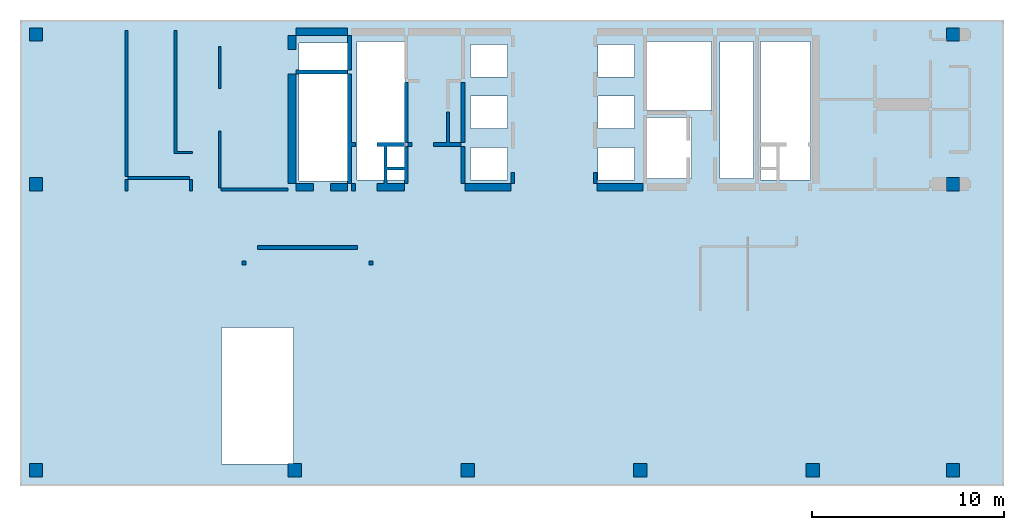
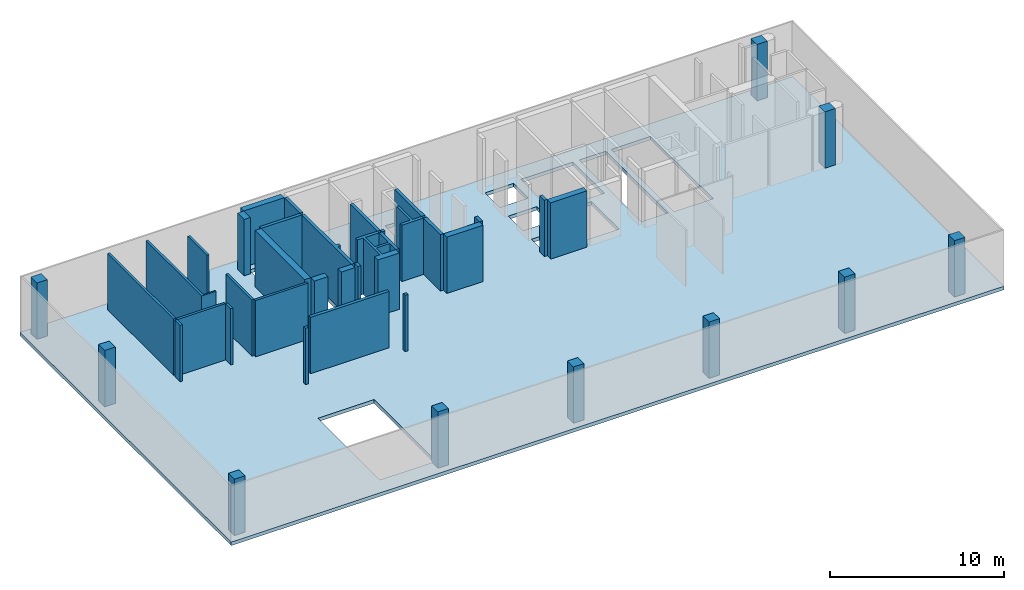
# One storey, part 1 of 4: 30 walls, 10 columns, 1 slab.
"""IFC4 building model written with IfcOpenShell, lengths in millimetres."""

from ifc_helpers import new_model, si_unit, frame, origin, place, context, project, spatial, triangles, element, save


model = new_model("IFC4")

# Units and contexts
model_context = context("Model", 3, precision=0.001, world=origin())
ifc_project = project(units=[si_unit("LENGTHUNIT", "METRE", prefix="MILLI"), si_unit("AREAUNIT", "SQUARE_METRE"), si_unit("VOLUMEUNIT", "CUBIC_METRE")], contexts=[model_context])

# Site, building, storey
site_placement = place(None, origin())
site = spatial("IfcSite", under=ifc_project, at=site_placement, Name="Site", CompositionType="ELEMENT")
building_placement = place(site_placement, origin())
building = spatial("IfcBuilding", under=site, at=building_placement, Name="INNOCEAN", CompositionType="ELEMENT")
storey_placement = place(building_placement, frame((0.0, 0.0, 42800.0)))
storey = spatial("IfcBuildingStorey", under=building, at=storey_placement, Name="F10", CompositionType="ELEMENT", Elevation=42800.0)

# Columns
column_1_placement = place(storey_placement, origin())
element("IfcColumn", 1, at=column_1_placement, inside=storey, Name="F10_Columns_F10_001", context=model_context, shape_type="Tessellation", body=[
    triangles([(40114.8, 2023.7, 0.0), (40114.8, 2023.7, 3950.0), (40114.8, 2722.3, 0.0), (40114.8, 2722.3, 3950.0), (40813.0, 2023.7, 3950.0), (40813.0, 2023.7, 0.0), (40813.0, 2722.3, 0.0), (40813.0, 2722.3, 3950.0)], [[1, 2, 3], [3, 2, 4], [5, 6, 7], [5, 7, 8], [6, 5, 1], [1, 5, 2], [8, 7, 3], [8, 3, 4], [3, 7, 1], [1, 7, 6], [8, 4, 2], [8, 2, 5]], closed=True),
])
column_2_placement = place(storey_placement, origin())
element("IfcColumn", 2, at=column_2_placement, inside=storey, Name="F10_Columns_F10_002", context=model_context, shape_type="Tessellation", body=[
    triangles([(47413.4, 24721.0, 0.0), (47413.4, 24721.0, 3950.0), (47413.4, 25419.5, 0.0), (47413.4, 25419.5, 3950.0), (48111.6, 24721.0, 3950.0), (48111.6, 24721.0, 0.0), (48111.6, 25419.5, 0.0), (48111.6, 25419.5, 3950.0)], [[1, 2, 3], [3, 2, 4], [5, 6, 7], [5, 7, 8], [6, 5, 1], [1, 5, 2], [8, 7, 3], [8, 3, 4], [1, 3, 6], [3, 7, 6], [4, 2, 5], [8, 4, 5]], closed=True),
])
column_3_placement = place(storey_placement, origin())
element("IfcColumn", 3, at=column_3_placement, inside=storey, Name="F10_Columns_F10_003", context=model_context, shape_type="Tessellation", body=[
    triangles([(47413.4, 16922.4, 0.0), (47413.4, 16922.4, 3950.0), (47413.4, 17620.9, 0.0), (47413.4, 17620.9, 3950.0), (48111.6, 16922.4, 3950.0), (48111.6, 16922.4, 0.0), (48111.6, 17620.9, 0.0), (48111.6, 17620.9, 3950.0)], [[1, 2, 3], [3, 2, 4], [5, 6, 7], [5, 7, 8], [6, 5, 1], [1, 5, 2], [8, 7, 3], [8, 3, 4], [1, 3, 6], [3, 7, 6], [4, 2, 5], [8, 4, 5]], closed=True),
])
column_4_placement = place(storey_placement, origin())
element("IfcColumn", 4, at=column_4_placement, inside=storey, Name="F10_Columns_F10_004", context=model_context, shape_type="Tessellation", body=[
    triangles([(13129.0, 2023.7, 0.0), (13129.0, 2023.7, 3950.0), (13129.0, 2722.3, 0.0), (13129.0, 2722.3, 3950.0), (13827.2, 2023.7, 3950.0), (13827.2, 2023.7, 0.0), (13827.2, 2722.3, 0.0), (13827.2, 2722.3, 3950.0)], [[1, 2, 3], [3, 2, 4], [5, 6, 7], [5, 7, 8], [6, 5, 1], [1, 5, 2], [8, 7, 3], [8, 3, 4], [3, 7, 1], [1, 7, 6], [8, 4, 2], [8, 2, 5]], closed=True),
])
column_5_placement = place(storey_placement, origin())
element("IfcColumn", 5, at=column_5_placement, inside=storey, Name="F10_Columns_F10_005", context=model_context, shape_type="Tessellation", body=[
    triangles([(47413.4, 2023.7, 0.0), (47413.4, 2023.7, 3950.0), (47413.4, 2722.3, 0.0), (47413.4, 2722.3, 3950.0), (48111.6, 2023.7, 3950.0), (48111.6, 2023.7, 0.0), (48111.6, 2722.3, 0.0), (48111.6, 2722.3, 3950.0)], [[1, 2, 3], [3, 2, 4], [5, 6, 7], [5, 7, 8], [6, 5, 1], [1, 5, 2], [8, 7, 3], [8, 3, 4], [3, 7, 1], [1, 7, 6], [8, 4, 2], [8, 2, 5]], closed=True),
])
column_6_placement = place(storey_placement, origin())
element("IfcColumn", 6, at=column_6_placement, inside=storey, Name="F10_Columns_F10_006", context=model_context, shape_type="Tessellation", body=[
    triangles([(-363.9, 2023.7, 0.0), (-363.9, 2023.7, 3950.0), (-363.9, 2722.3, 0.0), (-363.9, 2722.3, 3950.0), (334.3, 2023.7, 3950.0), (334.3, 2023.7, 0.0), (334.3, 2722.3, 0.0), (334.3, 2722.3, 3950.0)], [[1, 2, 3], [3, 2, 4], [5, 6, 7], [5, 7, 8], [6, 5, 1], [1, 5, 2], [8, 7, 3], [8, 3, 4], [3, 7, 1], [1, 7, 6], [8, 4, 2], [8, 2, 5]], closed=True),
])
column_7_placement = place(storey_placement, origin())
element("IfcColumn", 7, at=column_7_placement, inside=storey, Name="F10_Columns_F10_007", context=model_context, shape_type="Tessellation", body=[
    triangles([(-363.9, 24721.0, 0.0), (-363.9, 24721.0, 3950.0), (-363.9, 25419.5, 0.0), (-363.9, 25419.5, 3950.0), (334.3, 24721.0, 3950.0), (334.3, 24721.0, 0.0), (334.3, 25419.5, 0.0), (334.3, 25419.5, 3950.0)], [[1, 2, 3], [3, 2, 4], [5, 6, 7], [5, 7, 8], [6, 5, 1], [1, 5, 2], [8, 7, 3], [8, 3, 4], [3, 7, 1], [1, 7, 6], [8, 4, 2], [8, 2, 5]], closed=True),
])
column_8_placement = place(storey_placement, origin())
element("IfcColumn", 8, at=column_8_placement, inside=storey, Name="F10_Columns_F10_008", context=model_context, shape_type="Tessellation", body=[
    triangles([(31128.0, 2023.7, 0.0), (31128.0, 2023.7, 3950.0), (31128.0, 2722.3, 0.0), (31128.0, 2722.3, 3950.0), (31826.2, 2023.7, 3950.0), (31826.2, 2023.7, 0.0), (31826.2, 2722.3, 0.0), (31826.2, 2722.3, 3950.0)], [[1, 2, 3], [3, 2, 4], [5, 6, 7], [5, 7, 8], [6, 5, 1], [1, 5, 2], [8, 7, 3], [8, 3, 4], [3, 7, 1], [1, 7, 6], [8, 4, 2], [8, 2, 5]], closed=True),
])
column_9_placement = place(storey_placement, origin())
element("IfcColumn", 9, at=column_9_placement, inside=storey, Name="F10_Columns_F10_009", context=model_context, shape_type="Tessellation", body=[
    triangles([(22128.5, 2023.7, 0.0), (22128.5, 2023.7, 3950.0), (22128.5, 2722.3, 0.0), (22128.5, 2722.3, 3950.0), (22826.7, 2023.7, 3950.0), (22826.7, 2023.7, 0.0), (22826.7, 2722.3, 0.0), (22826.7, 2722.3, 3950.0)], [[1, 2, 3], [3, 2, 4], [5, 6, 7], [5, 7, 8], [6, 5, 1], [1, 5, 2], [8, 7, 3], [8, 3, 4], [3, 7, 1], [1, 7, 6], [8, 4, 2], [8, 2, 5]], closed=True),
])
column_10_placement = place(storey_placement, origin())
element("IfcColumn", 10, at=column_10_placement, inside=storey, Name="F10_Columns_F10_010", context=model_context, shape_type="Tessellation", body=[
    triangles([(-363.9, 16922.4, 0.0), (-363.9, 16922.4, 3950.0), (-363.9, 17620.9, 0.0), (-363.9, 17620.9, 3950.0), (334.3, 16922.4, 3950.0), (334.3, 16922.4, 0.0), (334.3, 17620.9, 0.0), (334.3, 17620.9, 3950.0)], [[1, 2, 3], [3, 2, 4], [5, 6, 7], [5, 7, 8], [6, 5, 1], [1, 5, 2], [8, 7, 3], [8, 3, 4], [3, 7, 1], [1, 7, 6], [8, 4, 2], [8, 2, 5]], closed=True),
])

# Slab
slab_placement = place(storey_placement, origin())
element("IfcSlab", 11, at=slab_placement, inside=storey, Name="F10_Slab_F10_001", context=model_context, shape_type="Tessellation", body=[
    triangles([(-846.215139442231, 25825.974025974, 0.0), (50420.3187250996, 25825.974025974, -250.0), (-846.215139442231, 25825.974025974, -250.0), (50420.3187250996, 25825.974025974, 0.0), (-846.215139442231, 1552.38095238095, 0.0), (-846.215139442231, 1552.38095238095, -250.0), (50420.3187250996, 1552.38095238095, 0.0), (50420.3187250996, 1552.38095238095, -250.0), (13398.406374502, 9808.22510822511, -250.0), (9660.9561752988, 9808.22510822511, 0.0), (9660.9561752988, 9808.22510822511, -250.0), (13398.406374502, 9808.22510822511, 0.0), (13398.406374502, 2681.38528138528, 0.0), (13398.406374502, 2681.38528138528, -250.0), (9660.9561752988, 2681.38528138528, -250.0), (9660.9561752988, 2681.38528138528, 0.0), (34130.6772908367, 20745.4545454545, -250.0), (31733.0677290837, 20745.4545454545, 0.0), (31733.0677290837, 20745.4545454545, -250.0), (34130.6772908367, 20745.4545454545, 0.0), (31733.0677290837, 17570.1298701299, 0.0), (31733.0677290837, 17570.1298701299, -250.0), (34130.6772908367, 17570.1298701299, 0.0), (34130.6772908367, 17570.1298701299, -250.0), (31168.9243027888, 19193.0735930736, 0.0), (29264.9402390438, 19193.0735930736, 0.0), (29264.9402390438, 19193.0735930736, -250.0), (31168.9243027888, 19193.0735930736, -250.0), (29264.9402390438, 17499.5670995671, 0.0), (29264.9402390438, 17499.5670995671, -250.0), (31168.9243027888, 17499.5670995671, 0.0), (31168.9243027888, 17499.5670995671, -250.0), (40336.2549800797, 24696.9696969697, -250.0), (37727.0916334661, 24696.9696969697, 0.0), (37727.0916334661, 24696.9696969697, -250.0), (40336.2549800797, 24696.9696969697, 0.0), (37727.0916334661, 17499.5670995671, 0.0), (37727.0916334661, 17499.5670995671, -250.0), (40336.2549800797, 17499.5670995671, 0.0), (40336.2549800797, 17499.5670995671, -250.0), (37374.5019920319, 24696.9696969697, 0.0), (35611.5537848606, 24696.9696969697, 0.0), (35611.5537848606, 24696.9696969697, -250.0), (37374.5019920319, 24696.9696969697, -250.0), (35611.5537848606, 17570.1298701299, 0.0), (35611.5537848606, 17570.1298701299, -250.0), (37374.5019920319, 17570.1298701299, 0.0), (37374.5019920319, 17570.1298701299, -250.0), (35188.4462151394, 24696.9696969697, 0.0), (31733.0677290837, 24696.9696969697, 0.0), (31733.0677290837, 24696.9696969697, -250.0), (35188.4462151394, 24696.9696969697, -250.0), (31733.0677290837, 21098.2683982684, 0.0), (31733.0677290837, 21098.2683982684, -250.0), (35188.4462151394, 21098.2683982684, 0.0), (35188.4462151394, 21098.2683982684, -250.0), (31168.9243027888, 21874.4588744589, 0.0), (29264.9402390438, 21874.4588744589, 0.0), (29264.9402390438, 21874.4588744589, -250.0), (31168.9243027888, 21874.4588744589, -250.0), (29264.9402390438, 20180.9523809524, 0.0), (29264.9402390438, 20180.9523809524, -250.0), (31168.9243027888, 20180.9523809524, 0.0), (31168.9243027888, 20180.9523809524, -250.0), (31168.9243027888, 24555.8441558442, 0.0), (29264.9402390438, 24555.8441558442, 0.0), (29264.9402390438, 24555.8441558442, -250.0), (31168.9243027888, 24555.8441558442, -250.0), (29264.9402390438, 22862.3376623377, 0.0), (29264.9402390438, 22862.3376623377, -250.0), (31168.9243027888, 22862.3376623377, 0.0), (31168.9243027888, 22862.3376623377, -250.0), (24540.2390438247, 19193.0735930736, -250.0), (22636.2549800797, 19193.0735930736, 0.0), (22636.2549800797, 19193.0735930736, -250.0), (24540.2390438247, 19193.0735930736, 0.0), (22636.2549800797, 17499.5670995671, 0.0), (22636.2549800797, 17499.5670995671, -250.0), (24540.2390438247, 17499.5670995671, 0.0), (24540.2390438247, 17499.5670995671, -250.0), (24540.2390438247, 21874.4588744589, -250.0), (22636.2549800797, 21874.4588744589, 0.0), (22636.2549800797, 21874.4588744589, -250.0), (24540.2390438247, 21874.4588744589, 0.0), (22636.2549800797, 20180.9523809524, 0.0), (22636.2549800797, 20180.9523809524, -250.0), (24540.2390438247, 20180.9523809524, 0.0), (24540.2390438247, 20180.9523809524, -250.0), (19251.3944223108, 24696.9696969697, 0.0), (16712.7490039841, 24696.9696969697, 0.0), (16712.7490039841, 24696.9696969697, -250.0), (19251.3944223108, 24696.9696969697, -250.0), (16712.7490039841, 17499.5670995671, 0.0), (16712.7490039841, 17499.5670995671, -250.0), (19251.3944223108, 17499.5670995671, 0.0), (19251.3944223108, 17499.5670995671, -250.0), (24540.2390438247, 24555.8441558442, -250.0), (22636.2549800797, 24555.8441558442, 0.0), (22636.2549800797, 24555.8441558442, -250.0), (24540.2390438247, 24555.8441558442, 0.0), (22636.2549800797, 22862.3376623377, 0.0), (22636.2549800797, 22862.3376623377, -250.0), (24540.2390438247, 22862.3376623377, 0.0), (24540.2390438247, 22862.3376623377, -250.0), (16219.1235059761, 24626.4069264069, 0.0), (13680.4780876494, 24626.4069264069, 0.0), (13680.4780876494, 24626.4069264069, -250.0), (16219.1235059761, 24626.4069264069, -250.0), (13680.4780876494, 17429.0043290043, 0.0), (13680.4780876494, 17429.0043290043, -250.0), (16219.1235059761, 17429.0043290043, 0.0), (16219.1235059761, 17429.0043290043, -250.0)], [[1, 2, 3], [1, 4, 2], [5, 1, 6], [6, 1, 3], [4, 7, 2], [2, 7, 8], [7, 6, 8], [7, 5, 6], [9, 10, 11], [12, 10, 9], [13, 12, 9], [13, 9, 14], [15, 13, 14], [16, 13, 15], [10, 16, 15], [10, 15, 11], [17, 18, 19], [20, 18, 17], [18, 21, 22], [18, 22, 19], [23, 20, 17], [23, 17, 24], [22, 23, 24], [21, 23, 22], [25, 26, 27], [25, 27, 28], [26, 29, 30], [26, 30, 27], [31, 25, 28], [31, 28, 32], [29, 31, 32], [29, 32, 30], [33, 34, 35], [36, 34, 33], [34, 37, 38], [34, 38, 35], [39, 36, 33], [39, 33, 40], [38, 39, 40], [37, 39, 38], [41, 42, 43], [41, 43, 44], [42, 45, 46], [42, 46, 43], [47, 41, 44], [47, 44, 48], [45, 47, 48], [45, 48, 46], [49, 50, 51], [49, 51, 52], [50, 53, 54], [50, 54, 51], [55, 49, 52], [55, 52, 56], [53, 55, 56], [53, 56, 54], [57, 58, 59], [57, 59, 60], [58, 61, 62], [58, 62, 59], [63, 57, 60], [63, 60, 64], [61, 63, 64], [61, 64, 62], [65, 66, 67], [65, 67, 68], [66, 69, 70], [66, 70, 67], [71, 65, 68], [71, 68, 72], [69, 71, 72], [69, 72, 70], [73, 74, 75], [76, 74, 73], [74, 77, 78], [74, 78, 75], [79, 76, 73], [79, 73, 80], [78, 79, 80], [77, 79, 78], [81, 82, 83], [84, 82, 81], [82, 85, 86], [82, 86, 83], [87, 84, 81], [87, 81, 88], [86, 87, 88], [85, 87, 86], [89, 90, 91], [89, 91, 92], [90, 93, 94], [90, 94, 91], [95, 89, 92], [95, 92, 96], [93, 95, 96], [93, 96, 94], [97, 98, 99], [100, 98, 97], [98, 101, 102], [98, 102, 99], [103, 100, 97], [103, 97, 104], [102, 103, 104], [101, 103, 102], [105, 106, 107], [105, 107, 108], [106, 109, 110], [106, 110, 107], [111, 105, 108], [111, 108, 112], [109, 111, 112], [109, 112, 110], [4, 39, 7], [39, 37, 7], [37, 45, 7], [47, 45, 37], [45, 23, 7], [4, 36, 39], [21, 31, 23], [23, 31, 7], [55, 20, 45], [45, 20, 23], [21, 25, 31], [25, 18, 63], [29, 13, 31], [31, 13, 7], [18, 53, 63], [20, 53, 18], [42, 49, 55], [63, 26, 25], [53, 57, 63], [63, 61, 26], [53, 71, 57], [29, 79, 13], [50, 65, 71], [71, 69, 57], [57, 69, 58], [26, 76, 29], [61, 76, 26], [29, 76, 79], [50, 66, 65], [61, 87, 76], [58, 87, 61], [79, 12, 13], [77, 12, 79], [58, 84, 87], [76, 85, 74], [87, 85, 76], [74, 95, 77], [77, 95, 12], [85, 95, 74], [69, 103, 58], [58, 103, 84], [85, 82, 95], [103, 82, 84], [69, 100, 103], [66, 100, 69], [103, 101, 82], [95, 93, 12], [93, 111, 12], [10, 5, 16], [16, 5, 13], [12, 109, 10], [111, 109, 12], [82, 89, 95], [98, 89, 101], [101, 89, 82], [90, 105, 93], [93, 105, 111], [90, 106, 105], [10, 1, 5], [106, 1, 109], [109, 1, 10], [4, 1, 36], [36, 1, 34], [34, 1, 41], [41, 1, 42], [42, 1, 49], [49, 1, 50], [50, 1, 66], [66, 1, 100], [100, 1, 98], [98, 1, 89], [89, 1, 90], [90, 1, 106], [5, 7, 13], [21, 18, 25], [45, 42, 55], [41, 47, 34], [34, 47, 37], [53, 50, 71], [55, 53, 20], [40, 2, 8], [38, 40, 8], [46, 38, 8], [46, 48, 38], [24, 46, 8], [33, 2, 40], [32, 22, 24], [32, 24, 8], [17, 56, 46], [17, 46, 24], [28, 22, 32], [19, 28, 64], [14, 30, 32], [14, 32, 8], [54, 19, 64], [54, 17, 19], [52, 43, 56], [27, 64, 28], [60, 54, 64], [62, 64, 27], [72, 54, 60], [80, 30, 14], [68, 51, 72], [70, 72, 60], [70, 60, 59], [73, 27, 30], [73, 62, 27], [73, 30, 80], [67, 51, 68], [88, 62, 73], [88, 59, 62], [9, 80, 14], [9, 78, 80], [81, 59, 88], [86, 73, 75], [86, 88, 73], [96, 75, 78], [96, 78, 9], [96, 86, 75], [104, 70, 59], [104, 59, 81], [83, 86, 96], [83, 104, 81], [97, 70, 104], [97, 67, 70], [102, 104, 83], [94, 96, 9], [112, 94, 9], [6, 11, 15], [6, 15, 14], [110, 9, 11], [110, 112, 9], [92, 83, 96], [92, 99, 102], [92, 102, 83], [108, 91, 94], [108, 94, 112], [107, 91, 108], [3, 11, 6], [3, 107, 110], [3, 110, 11], [3, 2, 33], [3, 33, 35], [3, 35, 44], [3, 44, 43], [3, 43, 52], [3, 52, 51], [3, 51, 67], [3, 67, 97], [3, 97, 99], [3, 99, 92], [3, 92, 91], [3, 91, 107], [8, 6, 14], [19, 22, 28], [43, 46, 56], [48, 44, 35], [48, 35, 38], [51, 54, 72], [54, 56, 17]], closed=True),
])

# Walls
wall_1_placement = place(storey_placement, origin())
element("IfcWall", 12, at=wall_1_placement, inside=storey, Name="F10_Walls_F10_001", context=model_context, shape_type="Tessellation", body=[
    triangles([(17533.6, 13277.1, 0.0), (17330.5, 13277.1, 0.0), (17330.5, 13277.1, 3950.0), (17533.6, 13277.1, 3950.0), (17533.6, 13073.9, 0.0), (17533.6, 13073.9, 3950.0), (17330.5, 13073.9, 0.0), (17330.5, 13073.9, 3950.0)], [[1, 2, 3], [1, 3, 4], [5, 1, 4], [5, 4, 6], [7, 5, 6], [7, 6, 8], [2, 7, 8], [2, 8, 3], [1, 5, 7], [2, 1, 7], [6, 4, 8], [4, 3, 8]], closed=True),
])
wall_2_placement = place(storey_placement, origin())
element("IfcWall", 13, at=wall_2_placement, inside=storey, Name="F10_Walls_F10_002", context=model_context, shape_type="Tessellation", body=[
    triangles([(10730.0, 13073.9, 0.0), (10933.1, 13073.9, 0.0), (10933.1, 13073.9, 3950.0), (10730.0, 13073.9, 3950.0), (10730.0, 13277.1, 0.0), (10730.0, 13277.1, 3950.0), (10933.1, 13277.1, 0.0), (10933.1, 13277.1, 3950.0)], [[1, 2, 3], [1, 3, 4], [5, 1, 4], [5, 4, 6], [7, 5, 6], [7, 6, 8], [2, 7, 8], [2, 8, 3], [5, 2, 1], [5, 7, 2], [3, 6, 4], [8, 6, 3]], closed=True),
])
wall_3_placement = place(storey_placement, origin())
element("IfcWall", 14, at=wall_3_placement, inside=storey, Name="F10_Walls_F10_003", context=model_context, shape_type="Tessellation", body=[
    triangles([(16733.9, 13874.1, 0.0), (16733.9, 14077.3, 0.0), (16733.9, 14077.3, 3950.0), (16733.9, 13874.1, 3950.0), (11529.7, 13874.1, 0.0), (11529.7, 13874.1, 3950.0), (11529.7, 14077.3, 0.0), (11529.7, 14077.3, 3950.0)], [[1, 2, 3], [1, 3, 4], [5, 1, 4], [5, 4, 6], [7, 5, 6], [7, 6, 8], [2, 7, 8], [2, 8, 3], [7, 2, 1], [7, 1, 5], [3, 8, 4], [4, 8, 6]], closed=True),
])
wall_4_placement = place(storey_placement, origin())
element("IfcWall", 15, at=wall_4_placement, inside=storey, Name="F10_Walls_F10_004", context=model_context, shape_type="Tessellation", body=[
    triangles([(13129.0, 16922.4, 0.0), (13129.0, 17074.8, 0.0), (13129.0, 17074.8, 3950.0), (13129.0, 16922.4, 3950.0), (9638.4, 16922.4, 3950.0), (9638.4, 16922.4, 0.0), (9638.4, 17074.8, 0.0), (9638.4, 17074.8, 3950.0)], [[1, 2, 3], [1, 3, 4], [1, 4, 5], [6, 1, 5], [7, 6, 5], [7, 5, 8], [7, 8, 3], [2, 7, 3], [7, 2, 1], [7, 1, 6], [3, 8, 4], [4, 8, 5]], closed=True),
])
wall_5_placement = place(storey_placement, origin())
element("IfcWall", 16, at=wall_5_placement, inside=storey, Name="F10_Walls_F10_005", context=model_context, shape_type="Tessellation", body=[
    triangles([(18130.0, 17316.1, 0.0), (17749.4, 17316.1, 0.0), (17749.4, 17316.1, 3950.0), (18130.0, 17316.1, 3950.0), (17749.4, 16922.4, 0.0), (17749.4, 16922.4, 3950.0), (19183.7, 16922.4, 0.0), (19183.7, 16922.4, 3950.0), (19183.7, 17316.1, 0.0), (19183.7, 17316.1, 3950.0), (19374.1, 17316.1, 0.0), (19374.1, 17316.1, 3950.0), (19374.1, 19246.7, 0.0), (19374.1, 19246.7, 3950.0), (19183.7, 19246.7, 0.0), (19183.7, 19246.7, 3950.0), (19183.7, 19449.9, 0.0), (19183.7, 19449.9, 3950.0), (17749.4, 19449.9, 0.0), (17749.4, 19449.9, 3950.0), (17749.4, 19246.7, 0.0), (17749.4, 19246.7, 3950.0), (18130.2, 19246.7, 0.0), (18130.2, 19246.7, 3950.0), (18130.2, 19245.0, 0.0), (18130.2, 19245.0, 3950.0), (18130.0, 19245.0, 0.0), (18130.0, 19245.0, 3950.0), (18282.5, 17316.1, 0.0), (18282.5, 17316.1, 3950.0), (18282.5, 18014.7, 0.0), (18282.5, 18014.7, 3950.0), (19183.7, 18014.7, 0.0), (19183.7, 18014.7, 3950.0), (19183.7, 18167.1, 0.0), (19183.7, 18167.1, 3950.0), (18282.5, 18167.1, 0.0), (18282.5, 18167.1, 3950.0), (18282.5, 19246.7, 0.0), (18282.5, 19246.7, 3950.0)], [[1, 2, 3], [1, 3, 4], [5, 6, 3], [2, 5, 3], [5, 7, 8], [5, 8, 6], [9, 10, 8], [7, 9, 8], [9, 11, 12], [9, 12, 10], [11, 13, 14], [11, 14, 12], [13, 15, 16], [13, 16, 14], [15, 17, 18], [15, 18, 16], [17, 19, 20], [17, 20, 18], [19, 21, 22], [19, 22, 20], [23, 24, 22], [21, 23, 22], [23, 25, 26], [23, 26, 24], [25, 27, 28], [25, 28, 26], [27, 1, 4], [27, 4, 28], [9, 29, 30], [9, 30, 10], [29, 31, 32], [29, 32, 30], [31, 33, 34], [31, 34, 32], [33, 9, 10], [33, 10, 34], [15, 35, 36], [15, 36, 16], [35, 37, 38], [35, 38, 36], [37, 39, 40], [37, 40, 38], [39, 15, 16], [39, 16, 40], [33, 11, 9], [35, 11, 33], [29, 9, 7], [5, 29, 7], [1, 29, 5], [2, 1, 5], [31, 35, 33], [31, 29, 1], [13, 11, 35], [37, 35, 31], [15, 13, 35], [39, 17, 15], [25, 39, 37], [27, 25, 37], [23, 39, 25], [19, 23, 21], [19, 17, 39], [19, 39, 23], [1, 27, 37], [1, 37, 31], [12, 34, 10], [12, 36, 34], [10, 30, 8], [30, 6, 8], [30, 4, 6], [4, 3, 6], [36, 32, 34], [30, 32, 4], [12, 14, 36], [36, 38, 32], [14, 16, 36], [18, 40, 16], [40, 26, 38], [26, 28, 38], [40, 24, 26], [24, 20, 22], [18, 20, 40], [40, 20, 24], [28, 4, 38], [38, 4, 32]], closed=True),
])
wall_6_placement = place(storey_placement, origin())
element("IfcWall", 17, at=wall_6_placement, inside=storey, Name="F10_Walls_F10_006", context=model_context, shape_type="Tessellation", body=[
    triangles([(16632.4, 16922.4, 0.0), (16632.4, 16922.4, 3950.0), (16429.3, 16922.4, 3950.0), (16429.3, 16922.4, 0.0), (16429.3, 17316.1, 3950.0), (16429.3, 17316.1, 0.0), (16632.4, 17316.1, 3950.0), (16632.4, 17316.1, 0.0)], [[1, 2, 3], [4, 1, 3], [4, 3, 5], [6, 4, 5], [6, 5, 7], [8, 6, 7], [8, 7, 2], [1, 8, 2], [6, 1, 4], [6, 8, 1], [2, 5, 3], [7, 5, 2]], closed=True),
])
wall_7_placement = place(storey_placement, origin())
element("IfcWall", 18, at=wall_7_placement, inside=storey, Name="F10_Walls_F10_007", context=model_context, shape_type="Tessellation", body=[
    triangles([(16226.2, 17316.1, 0.0), (16226.2, 17316.1, 3950.0), (16226.2, 16922.4, 3950.0), (16226.2, 16922.4, 0.0), (15337.6, 16922.4, 0.0), (15337.6, 16922.4, 3950.0), (15337.6, 17316.1, 3950.0), (15337.6, 17316.1, 0.0)], [[1, 2, 3], [4, 1, 3], [5, 4, 3], [5, 3, 6], [5, 6, 7], [8, 5, 7], [1, 8, 7], [1, 7, 2], [8, 1, 4], [8, 4, 5], [2, 7, 3], [3, 7, 6]], closed=True),
])
wall_8_placement = place(storey_placement, origin())
element("IfcWall", 19, at=wall_8_placement, inside=storey, Name="F10_Walls_F10_008", context=model_context, shape_type="Tessellation", body=[
    triangles([(14436.4, 17316.1, 0.0), (14436.4, 17316.1, 3950.0), (14436.4, 16922.4, 3950.0), (14436.4, 16922.4, 0.0), (13535.2, 16922.4, 0.0), (13535.2, 16922.4, 3950.0), (13535.2, 17316.1, 3950.0), (13535.2, 17316.1, 0.0)], [[1, 2, 3], [4, 1, 3], [5, 4, 3], [5, 3, 6], [5, 6, 7], [8, 5, 7], [1, 8, 7], [1, 7, 2], [8, 1, 4], [8, 4, 5], [2, 7, 3], [3, 7, 6]], closed=True),
])
wall_9_placement = place(storey_placement, origin())
element("IfcWall", 20, at=wall_9_placement, inside=storey, Name="F10_Walls_F10_009", context=model_context, shape_type="Tessellation", body=[
    triangles([(4789.6, 17519.3, 0.0), (4637.3, 17519.3, 0.0), (4637.3, 17519.3, 3950.0), (4789.6, 17519.3, 3950.0), (4789.6, 16922.4, 0.0), (4789.6, 16922.4, 3950.0), (4637.3, 16922.4, 0.0), (4637.3, 16922.4, 3950.0)], [[1, 2, 3], [1, 3, 4], [5, 1, 4], [5, 4, 6], [7, 5, 6], [7, 6, 8], [2, 7, 8], [2, 8, 3], [2, 1, 5], [2, 5, 7], [4, 3, 6], [6, 3, 8]], closed=True),
])
wall_10_placement = place(storey_placement, origin())
element("IfcWall", 21, at=wall_10_placement, inside=storey, Name="F10_Walls_F10_010", context=model_context, shape_type="Tessellation", body=[
    triangles([(8140.6, 17519.3, 0.0), (7988.3, 17519.3, 0.0), (7988.3, 17519.3, 3950.0), (8140.6, 17519.3, 3950.0), (8140.6, 16922.4, 0.0), (8140.6, 16922.4, 3950.0), (7988.3, 16922.4, 0.0), (7988.3, 16922.4, 3950.0)], [[1, 2, 3], [1, 3, 4], [5, 1, 4], [5, 4, 6], [7, 5, 6], [7, 6, 8], [2, 7, 8], [2, 8, 3], [2, 1, 5], [2, 5, 7], [4, 3, 6], [6, 3, 8]], closed=True),
])
wall_11_placement = place(storey_placement, origin())
element("IfcWall", 22, at=wall_11_placement, inside=storey, Name="F10_Walls_F10_011", context=model_context, shape_type="Tessellation", body=[
    triangles([(4789.6, 17519.3, 0.0), (7988.3, 17519.3, 0.0), (7988.3, 17519.3, 3950.0), (4789.6, 17519.3, 3950.0), (4789.6, 17671.7, 0.0), (4789.6, 17671.7, 3950.0), (7988.3, 17671.7, 0.0), (7988.3, 17671.7, 3950.0)], [[1, 2, 3], [1, 3, 4], [5, 1, 4], [5, 4, 6], [7, 5, 6], [7, 6, 8], [2, 7, 8], [2, 8, 3], [5, 2, 1], [5, 7, 2], [3, 6, 4], [8, 6, 3]], closed=True),
])
wall_12_placement = place(storey_placement, origin())
element("IfcWall", 23, at=wall_12_placement, inside=storey, Name="F10_Walls_F10_012", context=model_context, shape_type="Tessellation", body=[
    triangles([(16429.3, 23019.0, 0.0), (16226.2, 23019.0, 0.0), (16226.2, 23019.0, 3950.0), (16429.3, 23019.0, 3950.0), (16429.3, 19449.9, 0.0), (16429.3, 19449.9, 3950.0), (16632.4, 19449.9, 3950.0), (16632.4, 19449.9, 0.0), (16632.4, 19246.7, 0.0), (16632.4, 19246.7, 3950.0), (16429.3, 19246.7, 3950.0), (16429.3, 19246.7, 0.0), (16429.3, 17316.1, 0.0), (16429.3, 17316.1, 3950.0), (16226.2, 17316.1, 0.0), (16226.2, 17316.1, 3950.0), (16226.2, 19246.7, 0.0), (16226.2, 19246.7, 3950.0), (16226.2, 19449.9, 0.0), (16226.2, 19449.9, 3950.0)], [[1, 2, 3], [1, 3, 4], [5, 1, 4], [5, 4, 6], [5, 6, 7], [8, 5, 7], [9, 8, 7], [9, 7, 10], [9, 10, 11], [12, 9, 11], [13, 12, 11], [13, 11, 14], [15, 13, 14], [15, 14, 16], [17, 15, 16], [17, 16, 18], [19, 17, 18], [19, 18, 20], [2, 19, 20], [2, 20, 3], [17, 12, 13], [17, 13, 15], [5, 8, 9], [5, 9, 12], [19, 5, 12], [19, 12, 17], [1, 5, 19], [2, 1, 19], [11, 18, 14], [14, 18, 16], [7, 6, 10], [10, 6, 11], [6, 20, 11], [11, 20, 18], [6, 4, 20], [4, 3, 20]], closed=True),
])
wall_13_placement = place(storey_placement, origin())
element("IfcWall", 24, at=wall_13_placement, inside=storey, Name="F10_Walls_F10_013", context=model_context, shape_type="Tessellation", body=[
    triangles([(9486.1, 17074.8, 0.0), (9638.4, 17074.8, 0.0), (9638.4, 17074.8, 3950.0), (9486.1, 17074.8, 3950.0), (9486.1, 20046.9, 0.0), (9486.1, 20046.9, 3950.0), (9638.4, 20046.9, 0.0), (9638.4, 20046.9, 3950.0)], [[1, 2, 3], [1, 3, 4], [5, 1, 4], [5, 4, 6], [7, 5, 6], [7, 6, 8], [2, 7, 8], [2, 8, 3], [5, 2, 1], [5, 7, 2], [3, 6, 4], [8, 6, 3]], closed=True),
])
wall_14_placement = place(storey_placement, origin())
element("IfcWall", 25, at=wall_14_placement, inside=storey, Name="F10_Walls_F10_014", context=model_context, shape_type="Tessellation", body=[
    triangles([(7340.0, 18865.0, 0.0), (8140.0, 18865.0, 0.0), (8140.0, 18865.0, 3950.0), (7340.0, 18865.0, 3950.0), (7340.0, 18865.7, 3950.0), (7340.0, 18865.7, 0.0), (7188.6, 18865.7, 0.0), (7188.6, 18865.7, 3950.0), (7188.6, 25267.1, 3950.0), (7188.6, 25267.1, 0.0), (7340.9, 25267.1, 0.0), (7340.9, 25267.1, 3950.0), (7340.9, 18967.3, 0.0), (7340.9, 18967.3, 3950.0), (8140.6, 18967.3, 0.0), (8140.6, 18967.3, 3950.0), (8140.6, 18865.7, 0.0), (8140.6, 18865.7, 3950.0), (8140.0, 18865.7, 0.0), (8140.0, 18865.7, 3950.0)], [[1, 2, 3], [1, 3, 4], [1, 4, 5], [6, 1, 5], [7, 6, 5], [7, 5, 8], [9, 7, 8], [10, 7, 9], [11, 10, 9], [11, 9, 12], [13, 11, 12], [13, 12, 14], [15, 13, 14], [15, 14, 16], [17, 15, 16], [17, 16, 18], [19, 17, 18], [19, 18, 20], [19, 20, 3], [2, 19, 3], [15, 17, 19], [1, 19, 2], [6, 19, 1], [13, 15, 19], [13, 19, 6], [7, 13, 6], [10, 11, 13], [10, 13, 7], [18, 16, 20], [20, 4, 3], [20, 5, 4], [16, 14, 20], [20, 14, 5], [14, 8, 5], [12, 9, 14], [14, 9, 8]], closed=True),
])
wall_15_placement = place(storey_placement, origin())
element("IfcWall", 26, at=wall_15_placement, inside=storey, Name="F10_Walls_F10_015", context=model_context, shape_type="Tessellation", body=[
    triangles([(13535.2, 17316.1, 0.0), (13535.2, 23019.0, 0.0), (13535.2, 23019.0, 3950.0), (13535.2, 17316.1, 3950.0), (13129.0, 17316.1, 3950.0), (13129.0, 17316.1, 0.0), (13129.0, 23019.0, 0.0), (13129.0, 23019.0, 3950.0)], [[1, 2, 3], [1, 3, 4], [1, 4, 5], [6, 1, 5], [7, 6, 5], [7, 5, 8], [7, 8, 3], [2, 7, 3], [7, 2, 1], [7, 1, 6], [3, 8, 4], [4, 8, 5]], closed=True),
])
wall_16_placement = place(storey_placement, origin())
element("IfcWall", 27, at=wall_16_placement, inside=storey, Name="F10_Walls_F10_016", context=model_context, shape_type="Tessellation", body=[
    triangles([(4789.6, 17671.7, 0.0), (4789.6, 25267.1, 0.0), (4789.6, 25267.1, 3950.0), (4789.6, 17671.7, 3950.0), (4637.3, 17671.7, 0.0), (4637.3, 17671.7, 3950.0), (4637.3, 25267.1, 0.0), (4637.3, 25267.1, 3950.0)], [[1, 2, 3], [1, 3, 4], [5, 1, 4], [5, 4, 6], [7, 5, 6], [7, 6, 8], [2, 7, 8], [2, 8, 3], [7, 2, 1], [7, 1, 5], [3, 8, 4], [4, 8, 6]], closed=True),
])
wall_17_placement = place(storey_placement, origin())
element("IfcWall", 28, at=wall_17_placement, inside=storey, Name="F10_Walls_F10_017", context=model_context, shape_type="Tessellation", body=[
    triangles([(13535.2, 23019.0, 0.0), (16226.2, 23019.0, 0.0), (16226.2, 23019.0, 3950.0), (13535.2, 23019.0, 3950.0), (13535.2, 23222.2, 0.0), (13535.2, 23222.2, 3950.0), (16226.2, 23222.2, 0.0), (16226.2, 23222.2, 3950.0)], [[1, 2, 3], [1, 3, 4], [5, 1, 4], [5, 4, 6], [7, 5, 6], [7, 6, 8], [2, 7, 8], [2, 8, 3], [5, 2, 1], [5, 7, 2], [3, 6, 4], [8, 6, 3]], closed=True),
])
wall_18_placement = place(storey_placement, origin())
element("IfcWall", 29, at=wall_18_placement, inside=storey, Name="F10_Walls_F10_018", context=model_context, shape_type="Tessellation", body=[
    triangles([(9638.4, 22244.2, 0.0), (9638.4, 24454.2, 0.0), (9638.4, 24454.2, 3950.0), (9638.4, 22244.2, 3950.0), (9486.1, 22244.2, 0.0), (9486.1, 22244.2, 3950.0), (9486.1, 24454.2, 0.0), (9486.1, 24454.2, 3950.0)], [[1, 2, 3], [1, 3, 4], [5, 1, 4], [5, 4, 6], [7, 5, 6], [7, 6, 8], [2, 7, 8], [2, 8, 3], [7, 2, 1], [7, 1, 5], [3, 8, 4], [4, 8, 6]], closed=True),
])
wall_19_placement = place(storey_placement, origin())
element("IfcWall", 30, at=wall_19_placement, inside=storey, Name="F10_Walls_F10_019", context=model_context, shape_type="Tessellation", body=[
    triangles([(16429.3, 23222.2, 0.0), (16429.3, 25025.8, 0.0), (16429.3, 25025.8, 3950.0), (16429.3, 23222.2, 3950.0), (16226.2, 23222.2, 0.0), (16226.2, 23222.2, 3950.0), (16226.2, 25025.8, 0.0), (16226.2, 25025.8, 3950.0)], [[1, 2, 3], [1, 3, 4], [5, 1, 4], [5, 4, 6], [7, 5, 6], [7, 6, 8], [2, 7, 8], [2, 8, 3], [7, 2, 1], [7, 1, 5], [3, 8, 4], [4, 8, 6]], closed=True),
])
wall_20_placement = place(storey_placement, origin())
element("IfcWall", 31, at=wall_20_placement, inside=storey, Name="F10_Walls_F10_020", context=model_context, shape_type="Tessellation", body=[
    triangles([(13129.0, 25025.8, 0.0), (13129.0, 25025.8, 3950.0), (13535.2, 25025.8, 3950.0), (13535.2, 25025.8, 0.0), (13535.2, 24276.4, 0.0), (13535.2, 24276.4, 3950.0), (13129.0, 24276.4, 3950.0), (13129.0, 24276.4, 0.0)], [[1, 2, 3], [4, 1, 3], [5, 4, 3], [5, 3, 6], [5, 6, 7], [8, 5, 7], [1, 8, 7], [1, 7, 2], [4, 5, 8], [1, 4, 8], [6, 3, 7], [3, 2, 7]], closed=True),
])
wall_21_placement = place(storey_placement, origin())
element("IfcWall", 32, at=wall_21_placement, inside=storey, Name="F10_Walls_F10_021", context=model_context, shape_type="Tessellation", body=[
    triangles([(13535.2, 25025.8, 0.0), (16226.2, 25025.8, 0.0), (16226.2, 25025.8, 3950.0), (13535.2, 25025.8, 3950.0), (13535.2, 25419.5, 0.0), (13535.2, 25419.5, 3950.0), (16226.2, 25419.5, 0.0), (16226.2, 25419.5, 3950.0)], [[1, 2, 3], [1, 3, 4], [5, 1, 4], [5, 4, 6], [7, 5, 6], [7, 6, 8], [2, 7, 8], [2, 8, 3], [1, 7, 2], [5, 7, 1], [8, 4, 3], [8, 6, 4]], closed=True),
])
wall_22_placement = place(storey_placement, origin())
element("IfcWall", 33, at=wall_22_placement, inside=storey, Name="F10_Walls_F10_024", context=model_context, shape_type="Tessellation", body=[
    triangles([(24730.6, 17316.1, 0.0), (24730.6, 17316.1, 3950.0), (24730.6, 16922.4, 3950.0), (24730.6, 16922.4, 0.0), (22331.6, 16922.4, 0.0), (22331.6, 16922.4, 3950.0), (22331.6, 17316.1, 3950.0), (22331.6, 17316.1, 0.0)], [[1, 2, 3], [4, 1, 3], [5, 4, 3], [5, 3, 6], [5, 6, 7], [8, 5, 7], [1, 8, 7], [1, 7, 2], [8, 1, 4], [8, 4, 5], [2, 7, 3], [3, 7, 6]], closed=True),
])
wall_23_placement = place(storey_placement, origin())
element("IfcWall", 34, at=wall_23_placement, inside=storey, Name="F10_Walls_F10_026", context=model_context, shape_type="Tessellation", body=[
    triangles([(29224.0, 16922.4, 0.0), (31623.1, 16922.4, 0.0), (31623.1, 16922.4, 3950.0), (29224.0, 16922.4, 3950.0), (29224.0, 17316.1, 3950.0), (29224.0, 17316.1, 0.0), (31623.1, 17316.1, 0.0), (31623.1, 17316.1, 3950.0)], [[1, 2, 3], [1, 3, 4], [1, 4, 5], [6, 1, 5], [7, 6, 5], [7, 5, 8], [7, 8, 3], [2, 7, 3], [6, 2, 1], [6, 7, 2], [3, 5, 4], [8, 5, 3]], closed=True),
])
wall_24_placement = place(storey_placement, origin())
element("IfcWall", 35, at=wall_24_placement, inside=storey, Name="F10_Walls_F10_027", context=model_context, shape_type="Tessellation", body=[
    triangles([(29224.0, 17875.0, 0.0), (29224.0, 17875.0, 3950.0), (29224.0, 17316.1, 3950.0), (29224.0, 17316.1, 0.0), (29020.9, 17316.1, 0.0), (29020.9, 17316.1, 3950.0), (29020.9, 17875.0, 3950.0), (29020.9, 17875.0, 0.0)], [[1, 2, 3], [4, 1, 3], [5, 4, 3], [5, 3, 6], [5, 6, 7], [8, 5, 7], [1, 8, 7], [1, 7, 2], [8, 1, 4], [8, 4, 5], [2, 7, 3], [3, 7, 6]], closed=True),
])
wall_25_placement = place(storey_placement, origin())
element("IfcWall", 36, at=wall_25_placement, inside=storey, Name="F10_Walls_F10_028", context=model_context, shape_type="Tessellation", body=[
    triangles([(24921.0, 17875.0, 0.0), (24921.0, 17875.0, 3950.0), (24921.0, 17316.1, 3950.0), (24921.0, 17316.1, 0.0), (24730.6, 17316.1, 0.0), (24730.6, 17316.1, 3950.0), (24730.6, 17875.0, 3950.0), (24730.6, 17875.0, 0.0)], [[1, 2, 3], [4, 1, 3], [5, 4, 3], [5, 3, 6], [5, 6, 7], [8, 5, 7], [1, 8, 7], [1, 7, 2], [8, 1, 4], [8, 4, 5], [2, 7, 3], [3, 7, 6]], closed=True),
])
wall_26_placement = place(storey_placement, origin())
element("IfcWall", 37, at=wall_26_placement, inside=storey, Name="F10_Walls_F10_030", context=model_context, shape_type="Tessellation", body=[
    triangles([(22331.6, 17316.1, 0.0), (22331.6, 19246.7, 0.0), (22331.6, 19246.7, 3950.0), (22331.6, 17316.1, 3950.0), (22128.5, 17316.1, 0.0), (22128.5, 17316.1, 3950.0), (22128.5, 19246.7, 0.0), (22128.5, 19246.7, 3950.0)], [[1, 2, 3], [1, 3, 4], [5, 1, 4], [5, 4, 6], [7, 5, 6], [7, 6, 8], [2, 7, 8], [2, 8, 3], [7, 2, 1], [7, 1, 5], [3, 8, 4], [4, 8, 6]], closed=True),
])
wall_27_placement = place(storey_placement, origin())
element("IfcWall", 38, at=wall_27_placement, inside=storey, Name="F10_Walls_F10_032", context=model_context, shape_type="Tessellation", body=[
    triangles([(19374.1, 19449.9, 0.0), (19374.1, 19449.9, 3950.0), (19577.2, 19449.9, 3950.0), (19577.2, 19449.9, 0.0), (19577.2, 19246.7, 0.0), (19577.2, 19246.7, 3950.0), (19374.1, 19246.7, 3950.0), (19374.1, 19246.7, 0.0)], [[1, 2, 3], [4, 1, 3], [5, 4, 3], [5, 3, 6], [5, 6, 7], [8, 5, 7], [1, 8, 7], [1, 7, 2], [1, 4, 5], [1, 5, 8], [3, 2, 6], [6, 2, 7]], closed=True),
])
wall_28_placement = place(storey_placement, origin())
element("IfcWall", 39, at=wall_28_placement, inside=storey, Name="F10_Walls_F10_033", context=model_context, shape_type="Tessellation", body=[
    triangles([(21519.3, 21024.9, 0.0), (21366.9, 21024.9, 0.0), (21366.9, 21024.9, 3950.0), (21519.3, 21024.9, 3950.0), (21519.3, 19449.9, 0.0), (21519.3, 19449.9, 3950.0), (22128.5, 19449.9, 0.0), (22128.5, 19449.9, 3950.0), (22128.5, 19246.7, 0.0), (22128.5, 19246.7, 3950.0), (20694.2, 19246.7, 0.0), (20694.2, 19246.7, 3950.0), (20694.2, 19449.9, 0.0), (20694.2, 19449.9, 3950.0), (21366.9, 19449.9, 0.0), (21366.9, 19449.9, 3950.0)], [[1, 2, 3], [1, 3, 4], [5, 1, 4], [5, 4, 6], [7, 5, 6], [7, 6, 8], [9, 7, 8], [9, 8, 10], [11, 9, 10], [11, 10, 12], [13, 11, 12], [13, 12, 14], [15, 13, 14], [15, 14, 16], [2, 15, 16], [2, 16, 3], [5, 7, 9], [15, 5, 9], [11, 15, 9], [13, 15, 11], [2, 1, 5], [2, 5, 15], [8, 6, 10], [6, 16, 10], [16, 12, 10], [16, 14, 12], [4, 3, 6], [6, 3, 16]], closed=True),
])
wall_29_placement = place(storey_placement, origin())
element("IfcWall", 40, at=wall_29_placement, inside=storey, Name="F10_Walls_F10_038", context=model_context, shape_type="Tessellation", body=[
    triangles([(19374.1, 19449.9, 0.0), (19374.1, 22574.4, 0.0), (19374.1, 22574.4, 3950.0), (19374.1, 19449.9, 3950.0), (19183.7, 19449.9, 0.0), (19183.7, 19449.9, 3950.0), (19183.7, 22574.4, 0.0), (19183.7, 22574.4, 3950.0)], [[1, 2, 3], [1, 3, 4], [5, 1, 4], [5, 4, 6], [7, 5, 6], [7, 6, 8], [2, 7, 8], [2, 8, 3], [2, 1, 5], [7, 2, 5], [4, 3, 6], [3, 8, 6]], closed=True),
])
wall_30_placement = place(storey_placement, origin())
element("IfcWall", 41, at=wall_30_placement, inside=storey, Name="F10_Walls_F10_039", context=model_context, shape_type="Tessellation", body=[
    triangles([(22128.5, 19449.9, 0.0), (22331.6, 19449.9, 0.0), (22331.6, 19449.9, 3950.0), (22128.5, 19449.9, 3950.0), (22128.5, 22574.4, 0.0), (22128.5, 22574.4, 3950.0), (22331.6, 22574.4, 0.0), (22331.6, 22574.4, 3950.0)], [[1, 2, 3], [1, 3, 4], [5, 1, 4], [5, 4, 6], [7, 5, 6], [7, 6, 8], [2, 7, 8], [2, 8, 3], [7, 2, 1], [5, 7, 1], [3, 8, 4], [8, 6, 4]], closed=True),
])

save(model, "model.ifc")
